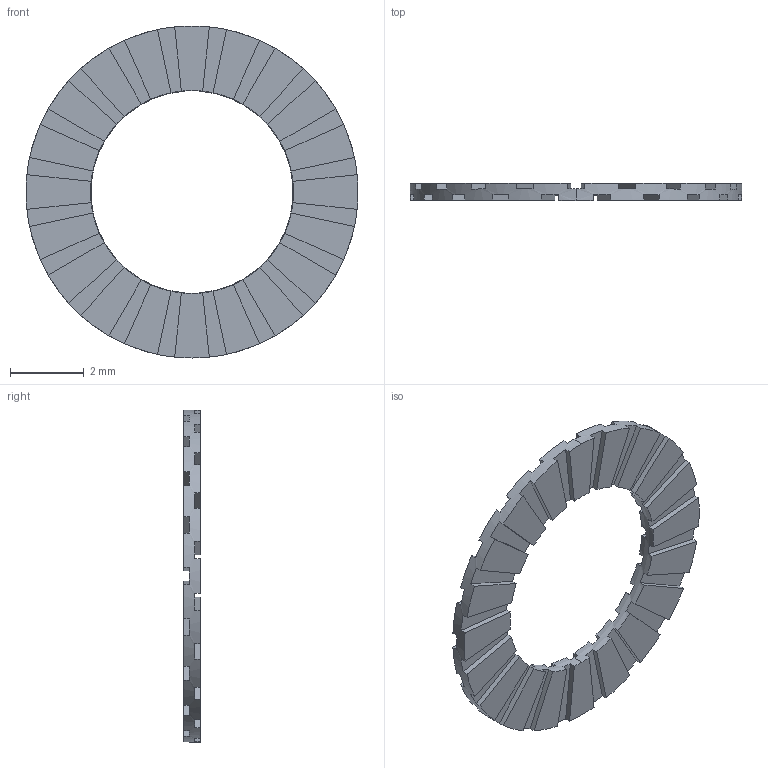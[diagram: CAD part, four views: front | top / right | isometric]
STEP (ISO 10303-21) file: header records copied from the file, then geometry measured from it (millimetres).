
FILE_DESCRIPTION (( 'STEP AP214' ), '1' );
FILE_NAME ('PTS-M5.STEP', '2019-10-30T05:27:37', ( '微软用户' ), ( '微软中国' ), 'SwSTEP 2.0', 'SolidWorks 2016', '' );
FILE_SCHEMA (( 'AUTOMOTIVE_DESIGN' ));
Length unit declared in the file: millimetre
Products named in the file (1): PTS-M5
Bounding box: 9 x 0.45 x 9 mm (x, y, z)
Volume: 14 mm3; surface area: 116.7 mm2
Topology: 1 solids, 1 shells, 164 faces, 492 edges, 328 vertices
Faces by surface type: plane 160, cylinder 4
Entity records: 5622 total; most frequent: DIRECTION 990, CARTESIAN_POINT 985, ORIENTED_EDGE 984, EDGE_CURVE 492, AXIS2_PLACEMENT_3D 333, VERTEX_POINT 328, LINE 324, VECTOR 324
